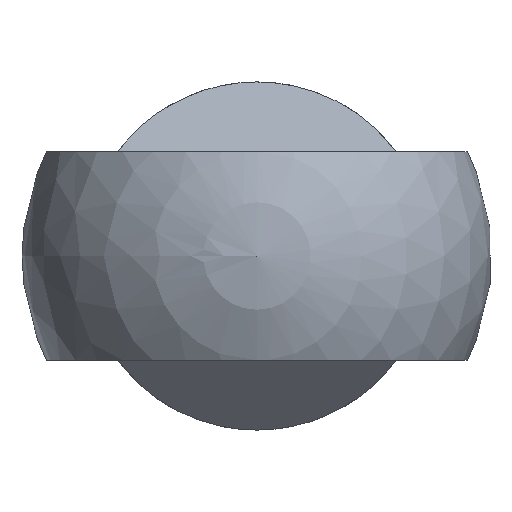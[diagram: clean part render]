
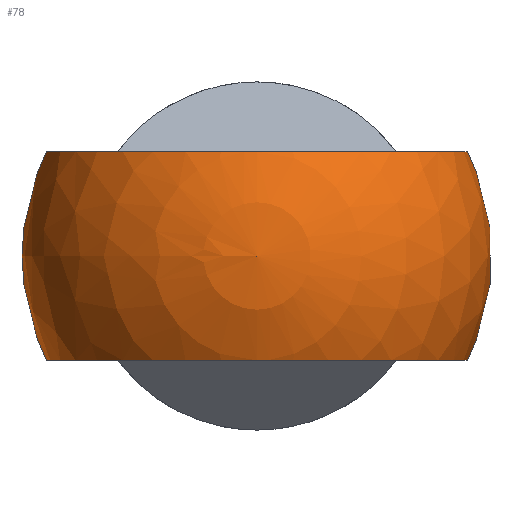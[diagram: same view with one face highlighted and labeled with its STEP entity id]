
A CAD part, left-side view. The second image highlights one B-rep face of the part: STEP entity #78.
In plain terms, the highlighted spherical face has radius 13.5 mm.
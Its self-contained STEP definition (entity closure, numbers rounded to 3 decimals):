
#78 = ADVANCED_FACE( '', ( #97, #98 ), #99, .T. );
#97 = FACE_BOUND( '', #131, .T. );
#98 = FACE_OUTER_BOUND( '', #132, .T. );
#99 = SPHERICAL_SURFACE( '', #133, 13.5 );
#131 = VERTEX_LOOP( '', #181 );
#132 = EDGE_LOOP( '', ( #182, #183, #184, #185 ) );
#133 = AXIS2_PLACEMENT_3D( '', #186, #187, #188 );
#181 = VERTEX_POINT( '', #245 );
#182 = ORIENTED_EDGE( '', *, *, #239, .F. );
#183 = ORIENTED_EDGE( '', *, *, #237, .T. );
#184 = ORIENTED_EDGE( '', *, *, #243, .F. );
#185 = ORIENTED_EDGE( '', *, *, #246, .T. );
#186 = CARTESIAN_POINT( '', ( 0., 0., 0. ) );
#187 = DIRECTION( '', ( 1., 0., 0. ) );
#188 = DIRECTION( '', ( 0., 1., 0. ) );
#237 = EDGE_CURVE( '', #257, #262, #264, .F. );
#239 = EDGE_CURVE( '', #257, #267, #268, .F. );
#243 = EDGE_CURVE( '', #273, #262, #275, .F. );
#245 = CARTESIAN_POINT( '', ( -13.5, 0., 0. ) );
#246 = EDGE_CURVE( '', #273, #267, #277, .F. );
#257 = VERTEX_POINT( '', #291 );
#262 = VERTEX_POINT( '', #298 );
#264 = CIRCLE( '', #301, 12.093 );
#267 = VERTEX_POINT( '', #304 );
#268 = CIRCLE( '', #305, 10. );
#273 = VERTEX_POINT( '', #311 );
#275 = CIRCLE( '', #314, 10. );
#277 = CIRCLE( '', #316, 12.093 );
#291 = CARTESIAN_POINT( '', ( 9.069, 8., -6. ) );
#298 = CARTESIAN_POINT( '', ( 9.069, -8., -6. ) );
#301 = AXIS2_PLACEMENT_3D( '', #336, #337, #338 );
#304 = CARTESIAN_POINT( '', ( 9.069, 8., 6. ) );
#305 = AXIS2_PLACEMENT_3D( '', #342, #343, #344 );
#311 = CARTESIAN_POINT( '', ( 9.069, -8., 6. ) );
#314 = AXIS2_PLACEMENT_3D( '', #350, #351, #352 );
#316 = AXIS2_PLACEMENT_3D( '', #356, #357, #358 );
#336 = CARTESIAN_POINT( '', ( 0., 0., -6. ) );
#337 = DIRECTION( '', ( 0., 0., -1. ) );
#338 = DIRECTION( '', ( -1., 0., 0. ) );
#342 = CARTESIAN_POINT( '', ( 9.069, 0., 0. ) );
#343 = DIRECTION( '', ( -1., 0., 0. ) );
#344 = DIRECTION( '', ( 0., -1., 0. ) );
#350 = CARTESIAN_POINT( '', ( 9.069, 0., 0. ) );
#351 = DIRECTION( '', ( -1., 0., 0. ) );
#352 = DIRECTION( '', ( 0., -1., 0. ) );
#356 = CARTESIAN_POINT( '', ( 0., 0., 6. ) );
#357 = DIRECTION( '', ( 0., 0., 1. ) );
#358 = DIRECTION( '', ( 1., 0., 0. ) );
